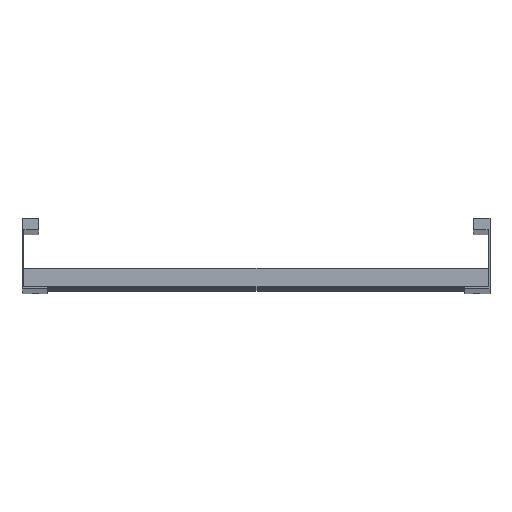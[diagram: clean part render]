
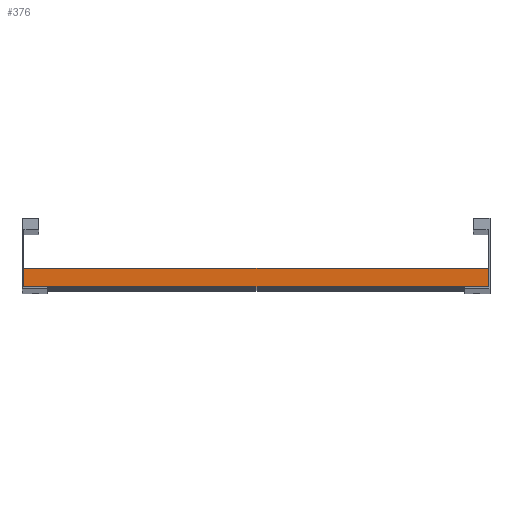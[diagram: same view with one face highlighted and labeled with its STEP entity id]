
A CAD part, top view. The second image highlights one B-rep face of the part: STEP entity #376.
In plain terms, the highlighted planar face has unit normal (0, 0, 1).
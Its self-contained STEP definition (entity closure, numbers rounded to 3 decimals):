
#4 = CARTESIAN_POINT ( 'NONE',  ( -248., 0., 20.25 ) ) ;
#84 = VECTOR ( 'NONE', #445, 1000. ) ;
#86 = VERTEX_POINT ( 'NONE', #565 ) ;
#90 = CARTESIAN_POINT ( 'NONE',  ( 248., 20., 20.25 ) ) ;
#129 = VECTOR ( 'NONE', #666, 1000. ) ;
#145 = ORIENTED_EDGE ( 'NONE', *, *, #669, .T. ) ;
#146 = LINE ( 'NONE', #163, #129 ) ;
#163 = CARTESIAN_POINT ( 'NONE',  ( 248., 20., 20.25 ) ) ;
#376 = ADVANCED_FACE ( 'NONE', ( #1439 ), #394, .F. ) ;
#394 = PLANE ( 'NONE',  #724 ) ;
#407 = EDGE_LOOP ( 'NONE', ( #1235, #1352, #1563, #145 ) ) ;
#435 = LINE ( 'NONE', #828, #1188 ) ;
#445 = DIRECTION ( 'NONE',  ( -1., 0., 0. ) ) ;
#475 = EDGE_CURVE ( 'NONE', #523, #1474, #435, .T. ) ;
#523 = VERTEX_POINT ( 'NONE', #1066 ) ;
#565 = CARTESIAN_POINT ( 'NONE',  ( 248., 0., 20.25 ) ) ;
#604 = LINE ( 'NONE', #1243, #84 ) ;
#666 = DIRECTION ( 'NONE',  ( -1., 0., 0. ) ) ;
#669 = EDGE_CURVE ( 'NONE', #1638, #523, #146, .T. ) ;
#724 = AXIS2_PLACEMENT_3D ( 'NONE', #1593, #1179, #1429 ) ;
#828 = CARTESIAN_POINT ( 'NONE',  ( -248., 20., 20.25 ) ) ;
#950 = CARTESIAN_POINT ( 'NONE',  ( 248., 20., 20.25 ) ) ;
#1066 = CARTESIAN_POINT ( 'NONE',  ( -248., 20., 20.25 ) ) ;
#1102 = DIRECTION ( 'NONE',  ( 0., -1., 0. ) ) ;
#1179 = DIRECTION ( 'NONE',  ( 0., 0., -1. ) ) ;
#1188 = VECTOR ( 'NONE', #1102, 1000. ) ;
#1235 = ORIENTED_EDGE ( 'NONE', *, *, #475, .T. ) ;
#1243 = CARTESIAN_POINT ( 'NONE',  ( 248., 0., 20.25 ) ) ;
#1352 = ORIENTED_EDGE ( 'NONE', *, *, #1704, .F. ) ;
#1429 = DIRECTION ( 'NONE',  ( 0., 1., 0. ) ) ;
#1439 = FACE_OUTER_BOUND ( 'NONE', #407, .T. ) ;
#1474 = VERTEX_POINT ( 'NONE', #4 ) ;
#1530 = EDGE_CURVE ( 'NONE', #1638, #86, #1567, .T. ) ;
#1563 = ORIENTED_EDGE ( 'NONE', *, *, #1530, .F. ) ;
#1567 = LINE ( 'NONE', #90, #1664 ) ;
#1593 = CARTESIAN_POINT ( 'NONE',  ( 248., 20., 20.25 ) ) ;
#1638 = VERTEX_POINT ( 'NONE', #950 ) ;
#1664 = VECTOR ( 'NONE', #1672, 1000. ) ;
#1672 = DIRECTION ( 'NONE',  ( 0., -1., 0. ) ) ;
#1704 = EDGE_CURVE ( 'NONE', #86, #1474, #604, .T. ) ;
